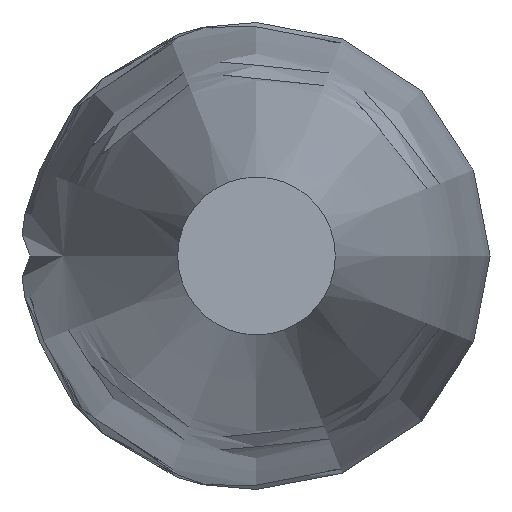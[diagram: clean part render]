
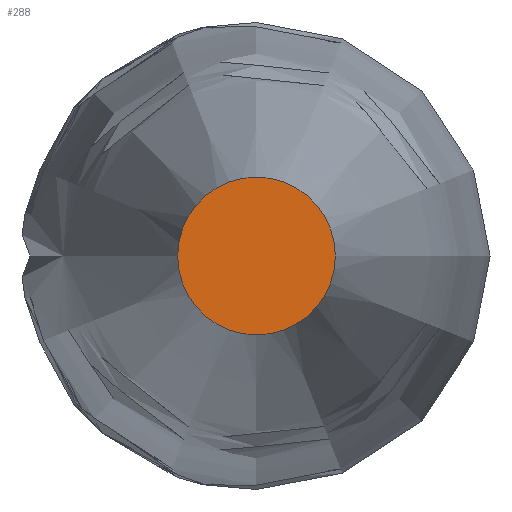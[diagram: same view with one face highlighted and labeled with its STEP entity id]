
A CAD part, left-side view. The second image highlights one B-rep face of the part: STEP entity #288.
In plain terms, the highlighted planar face has unit normal (-1, 0, 0).
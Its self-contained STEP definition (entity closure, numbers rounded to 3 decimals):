
#243=CARTESIAN_POINT('',(600.0,144.0,0.0));
#244=VERTEX_POINT('',#243);
#269=CARTESIAN_POINT('',(600.0,0.,0.0));
#270=DIRECTION('',(-1.0,0.0,0.0));
#271=DIRECTION('',(0.0,1.0,0.0));
#272=AXIS2_PLACEMENT_3D('',#269,#270,#271);
#273=CIRCLE('',#272,144.0);
#274=EDGE_CURVE('',#244,#244,#273,.T.);
#280=CARTESIAN_POINT('',(600.0,72.0,0.0));
#281=DIRECTION('',(-1.0,0.0,0.0));
#282=DIRECTION('',(0.0,0.0,1.0));
#283=AXIS2_PLACEMENT_3D('',#280,#281,#282);
#284=PLANE('',#283);
#285=ORIENTED_EDGE('',*,*,#274,.T.);
#286=EDGE_LOOP('',(#285));
#287=FACE_OUTER_BOUND('',#286,.T.);
#288=ADVANCED_FACE('',(#287),#284,.T.);
